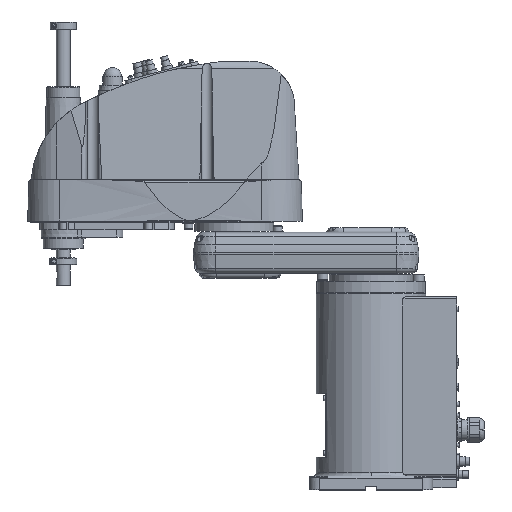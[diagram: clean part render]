
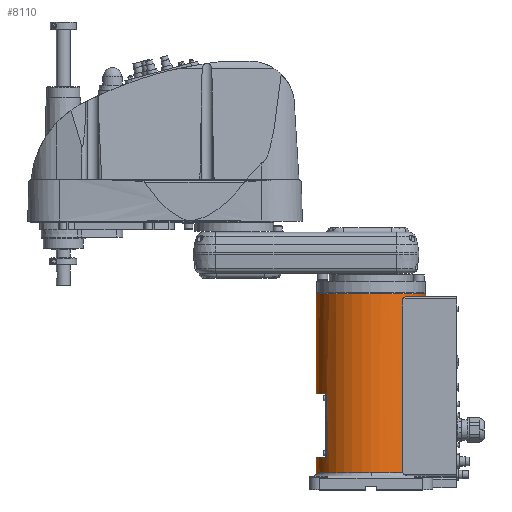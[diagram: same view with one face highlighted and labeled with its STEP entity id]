
A CAD part, top view. The second image highlights one B-rep face of the part: STEP entity #8110.
In plain terms, the highlighted cylindrical face has radius 80 mm (diameter 160 mm), a partial arc.
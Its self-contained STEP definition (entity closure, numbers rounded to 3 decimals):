
#8110 = ADVANCED_FACE( '', ( #23942 ), #23943, .T. );
#8408 = EDGE_CURVE( '', #16370, #20400, #24268, .T. );
#8946 = VERTEX_POINT( '', #24876 );
#9074 = EDGE_CURVE( '', #20400, #12450, #25019, .T. );
#9588 = VERTEX_POINT( '', #25605 );
#10462 = EDGE_CURVE( '', #12450, #13146, #26591, .T. );
#10566 = EDGE_CURVE( '', #8946, #23216, #26705, .T. );
#10858 = EDGE_CURVE( '', #9588, #13288, #27039, .T. );
#10972 = EDGE_CURVE( '', #21244, #18022, #27164, .T. );
#11928 = EDGE_CURVE( '', #13288, #23346, #28230, .T. );
#12040 = EDGE_CURVE( '', #20948, #16370, #28351, .T. );
#12220 = EDGE_CURVE( '', #23346, #21244, #28557, .T. );
#12450 = VERTEX_POINT( '', #28812 );
#13146 = VERTEX_POINT( '', #29594 );
#13288 = VERTEX_POINT( '', #29757 );
#13876 = EDGE_CURVE( '', #18022, #23216, #30391, .T. );
#16370 = VERTEX_POINT( '', #33165 );
#16444 = EDGE_CURVE( '', #13146, #9588, #33248, .T. );
#17168 = EDGE_CURVE( '', #8946, #20948, #34036, .T. );
#18022 = VERTEX_POINT( '', #34966 );
#20400 = VERTEX_POINT( '', #37638 );
#20948 = VERTEX_POINT( '', #38250 );
#21244 = VERTEX_POINT( '', #38589 );
#23216 = VERTEX_POINT( '', #40794 );
#23346 = VERTEX_POINT( '', #40944 );
#23942 = FACE_OUTER_BOUND( '', #41701, .T. );
#23943 = CYLINDRICAL_SURFACE( '', #41702, 80. );
#24268 = LINE( '', #42291, #42292 );
#24876 = CARTESIAN_POINT( '', ( -80., 286.5, 0. ) );
#25019 = CIRCLE( '', #43362, 80. );
#25605 = CARTESIAN_POINT( '', ( 0., 25., 80. ) );
#26591 = LINE( '', #45624, #45625 );
#26705 = CIRCLE( '', #45782, 80. );
#27039 = CIRCLE( '', #46258, 80. );
#27164 = CIRCLE( '', #46462, 80. );
#28230 = LINE( '', #48079, #48080 );
#28351 = CIRCLE( '', #48286, 80. );
#28557 = B_SPLINE_CURVE_WITH_KNOTS( '', 3, ( #48565, #48566, #48567, #48568, #48569, #48570, #48571, #48572, #48573, #48574, #48575, #48576, #48577, #48578, #48579, #48580 ), .UNSPECIFIED., .F., .F., ( 4, 2, 2, 2, 2, 2, 2, 4 ), ( 0., 0.565, 1.13, 1.695, 2.26, 4.16, 5.11, 6.06 ), .UNSPECIFIED. );
#28812 = CARTESIAN_POINT( '', ( -80., 47.5, 0. ) );
#29594 = CARTESIAN_POINT( '', ( -80., 25., 0. ) );
#29757 = CARTESIAN_POINT( '', ( 46.637, 25., 65. ) );
#30391 = LINE( '', #51292, #51293 );
#33165 = CARTESIAN_POINT( '', ( -65., 140.5, 46.637 ) );
#33248 = CIRCLE( '', #55627, 80. );
#34036 = LINE( '', #56870, #56871 );
#34966 = CARTESIAN_POINT( '', ( 80., 282., 0. ) );
#37638 = CARTESIAN_POINT( '', ( -65., 47.5, 46.637 ) );
#38250 = CARTESIAN_POINT( '', ( -80., 140.5, 0. ) );
#38589 = CARTESIAN_POINT( '', ( 50.557, 282., 62. ) );
#40794 = CARTESIAN_POINT( '', ( 80., 286.5, 0. ) );
#40944 = CARTESIAN_POINT( '', ( 46.637, 279., 65. ) );
#41701 = EDGE_LOOP( '', ( #68272, #68273, #68274, #68275, #68276, #68277, #68278, #68279, #68280, #68281, #68282, #68283 ) );
#41702 = AXIS2_PLACEMENT_3D( '', #68284, #68285, #68286 );
#42291 = CARTESIAN_POINT( '', ( -65., 94., 46.637 ) );
#42292 = VECTOR( '', #68631, 1. );
#43362 = AXIS2_PLACEMENT_3D( '', #69517, #69518, #69519 );
#45624 = CARTESIAN_POINT( '', ( -80., 155.75, 0. ) );
#45625 = VECTOR( '', #71532, 1. );
#45782 = AXIS2_PLACEMENT_3D( '', #71669, #71670, #71671 );
#46258 = AXIS2_PLACEMENT_3D( '', #72110, #72111, #72112 );
#46462 = AXIS2_PLACEMENT_3D( '', #72246, #72247, #72248 );
#48079 = CARTESIAN_POINT( '', ( 46.637, 152., 65. ) );
#48080 = VECTOR( '', #73504, 1. );
#48286 = AXIS2_PLACEMENT_3D( '', #73619, #73620, #73621 );
#48565 = CARTESIAN_POINT( '', ( 46.637, 279., 65. ) );
#48566 = CARTESIAN_POINT( '', ( 46.637, 279.188, 65. ) );
#48567 = CARTESIAN_POINT( '', ( 46.662, 279.376, 64.982 ) );
#48568 = CARTESIAN_POINT( '', ( 46.758, 279.739, 64.913 ) );
#48569 = CARTESIAN_POINT( '', ( 46.828, 279.915, 64.863 ) );
#48570 = CARTESIAN_POINT( '', ( 47.002, 280.242, 64.736 ) );
#48571 = CARTESIAN_POINT( '', ( 47.106, 280.395, 64.661 ) );
#48572 = CARTESIAN_POINT( '', ( 47.333, 280.673, 64.495 ) );
#48573 = CARTESIAN_POINT( '', ( 47.455, 280.799, 64.405 ) );
#48574 = CARTESIAN_POINT( '', ( 47.991, 281.279, 64.009 ) );
#48575 = CARTESIAN_POINT( '', ( 48.491, 281.555, 63.632 ) );
#48576 = CARTESIAN_POINT( '', ( 49.269, 281.826, 63.029 ) );
#48577 = CARTESIAN_POINT( '', ( 49.533, 281.893, 62.822 ) );
#48578 = CARTESIAN_POINT( '', ( 50.054, 281.98, 62.407 ) );
#48579 = CARTESIAN_POINT( '', ( 50.312, 282., 62.2 ) );
#48580 = CARTESIAN_POINT( '', ( 50.557, 282., 62. ) );
#51292 = CARTESIAN_POINT( '', ( 80., 155.75, 0. ) );
#51293 = VECTOR( '', #75887, 1. );
#55627 = AXIS2_PLACEMENT_3D( '', #79259, #79260, #79261 );
#56870 = CARTESIAN_POINT( '', ( -80., 155.75, 0. ) );
#56871 = VECTOR( '', #80052, 1. );
#68272 = ORIENTED_EDGE( '', *, *, #13876, .T. );
#68273 = ORIENTED_EDGE( '', *, *, #10566, .F. );
#68274 = ORIENTED_EDGE( '', *, *, #17168, .T. );
#68275 = ORIENTED_EDGE( '', *, *, #12040, .T. );
#68276 = ORIENTED_EDGE( '', *, *, #8408, .T. );
#68277 = ORIENTED_EDGE( '', *, *, #9074, .T. );
#68278 = ORIENTED_EDGE( '', *, *, #10462, .T. );
#68279 = ORIENTED_EDGE( '', *, *, #16444, .T. );
#68280 = ORIENTED_EDGE( '', *, *, #10858, .T. );
#68281 = ORIENTED_EDGE( '', *, *, #11928, .T. );
#68282 = ORIENTED_EDGE( '', *, *, #12220, .T. );
#68283 = ORIENTED_EDGE( '', *, *, #10972, .T. );
#68284 = CARTESIAN_POINT( '', ( 0., 155.75, 0. ) );
#68285 = DIRECTION( '', ( 0., -1., 0. ) );
#68286 = DIRECTION( '', ( 1., 0., 0. ) );
#68631 = DIRECTION( '', ( 0., -1., 0. ) );
#69517 = CARTESIAN_POINT( '', ( 0., 47.5, 0. ) );
#69518 = DIRECTION( '', ( 0., -1., 0. ) );
#69519 = DIRECTION( '', ( 1., 0., 0. ) );
#71532 = DIRECTION( '', ( 0., -1., 0. ) );
#71669 = CARTESIAN_POINT( '', ( 0., 286.5, 0. ) );
#71670 = DIRECTION( '', ( 0., 1., 0. ) );
#71671 = DIRECTION( '', ( 1., 0., 0. ) );
#72110 = CARTESIAN_POINT( '', ( 0., 25., 0. ) );
#72111 = DIRECTION( '', ( 0., 1., 0. ) );
#72112 = DIRECTION( '', ( 1., 0., 0. ) );
#72246 = CARTESIAN_POINT( '', ( 0., 282., 0. ) );
#72247 = DIRECTION( '', ( 0., 1., 0. ) );
#72248 = DIRECTION( '', ( 1., 0., 0. ) );
#73504 = DIRECTION( '', ( 0., 1., 0. ) );
#73619 = CARTESIAN_POINT( '', ( 0., 140.5, 0. ) );
#73620 = DIRECTION( '', ( 0., 1., 0. ) );
#73621 = DIRECTION( '', ( 1., 0., 0. ) );
#75887 = DIRECTION( '', ( 0., 1., 0. ) );
#79259 = CARTESIAN_POINT( '', ( 0., 25., 0. ) );
#79260 = DIRECTION( '', ( 0., 1., 0. ) );
#79261 = DIRECTION( '', ( 1., 0., 0. ) );
#80052 = DIRECTION( '', ( 0., -1., 0. ) );
